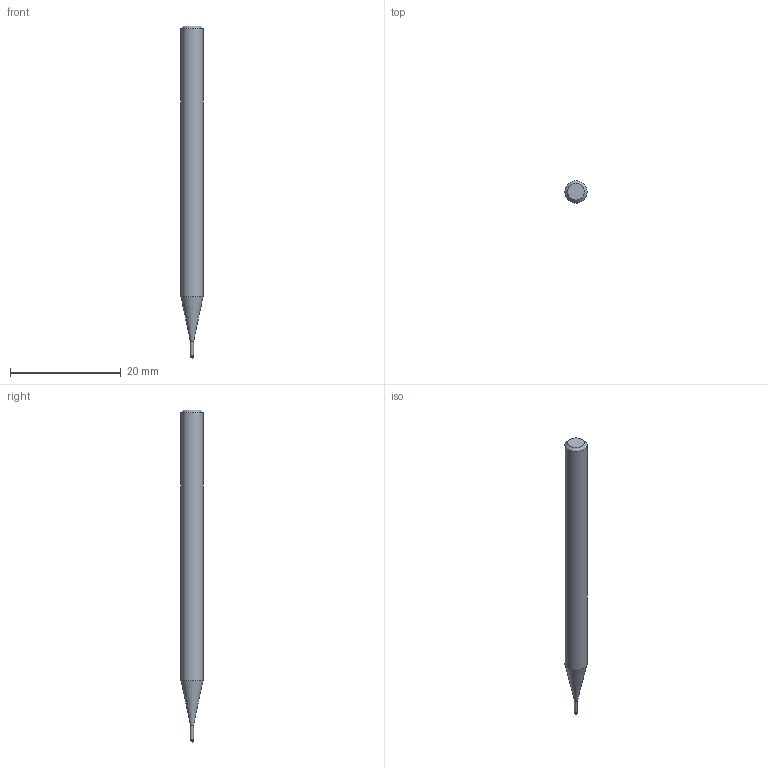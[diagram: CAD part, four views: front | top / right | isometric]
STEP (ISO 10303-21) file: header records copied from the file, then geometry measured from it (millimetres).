
FILE_DESCRIPTION((''),'2;1');
FILE_NAME('C:\Users\nsx150\AppData\Local\Temp\Mastercam 2021\EUJSUNXURU\TEMP.step','2021-04-22T10:26:10',(''),(''),'STEP Write','Mastercam 2021 ... CNC Software, Inc.','');
FILE_SCHEMA(('AUTOMOTIVE_DESIGN'));
Length unit declared in the file: millimetre
Products named in the file (1): None
Bounding box: 4 x 4 x 60 mm (x, y, z)
Volume: 653.2 mm3; surface area: 688.3 mm2
Topology: 2 solids, 2 shells, 9 faces, 14 edges, 8 vertices
Faces by surface type: plane 3, cylinder 3, cone 2, sphere 1
Full cylindrical faces by diameter (mm): 0.56 x1, 0.6 x1, 4 x1
Entity records: 211 total; most frequent: DIRECTION 36, CARTESIAN_POINT 25, AXIS2_PLACEMENT_3D 18, ORIENTED_EDGE 14, EDGE_LOOP 14, STYLED_ITEM 12, ADVANCED_FACE 9, FACE_BOUND 8
